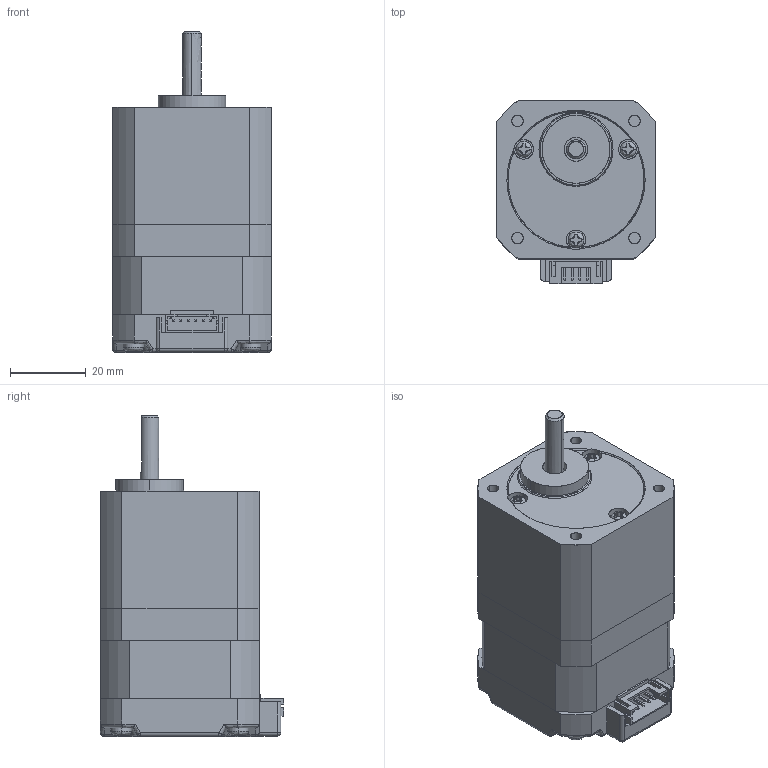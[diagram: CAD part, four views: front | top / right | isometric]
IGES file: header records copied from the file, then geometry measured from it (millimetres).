
Start section: SolidWorks IGES file using analytic representation for surfaces
Global section: file name: C:\Documents and Settings\3dcad\デスクトップ\PMSA-U42D1-S 08-06.IGS; native system: SolidWorks 2006 by SolidWorks Corporation; preprocessor: SolidWorks 2006 by SolidWorks Corporation; author: 3dcad; date: 090806.131740; units: millimetre
Bounding box: 42 x 48.5 x 85 mm (x, y, z)
Surface area: 25719.9 mm2 (no closed solid volume)
Topology: 0 solids, 0 shells, 438 faces, 3979 edges, 3969 vertices
Faces by surface type: bspline 304, revolution 134
